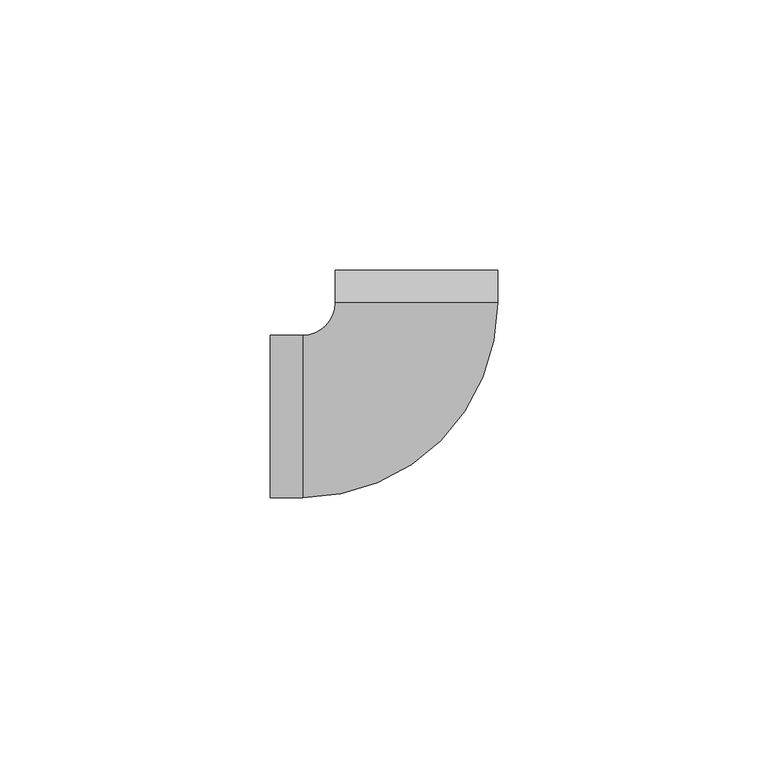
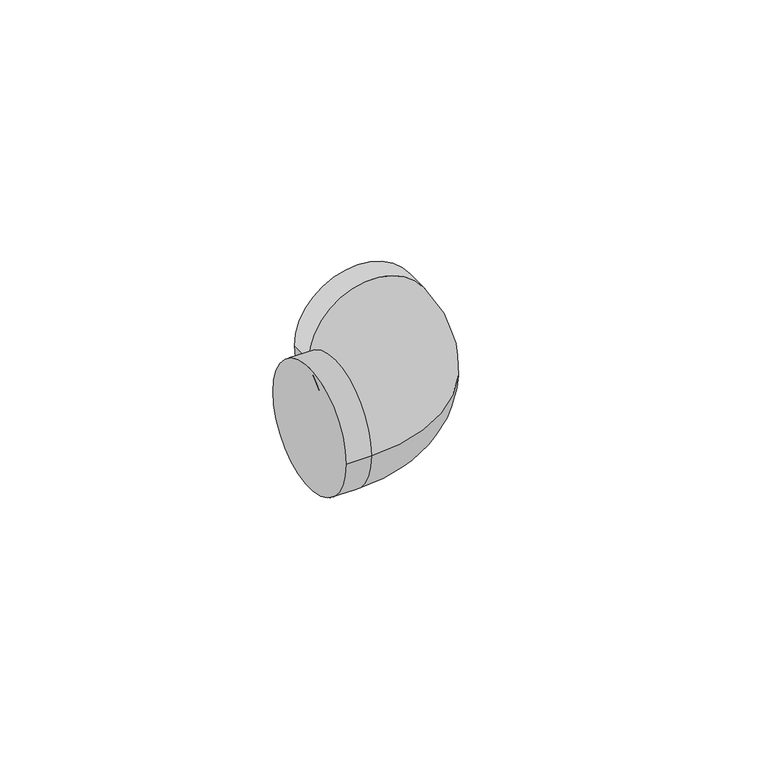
"""IFC4 building model written with IfcOpenShell, lengths in millimetres: pipe fitting geometry, PipeFitting_GirpiHTA_CPVC_Elbows_ForExpansionJoints : PipeFitting_GirpiHTA_CPVC_Elbows_ForExpansionJoints."""

from ifc_helpers import new_model, si_unit, point, frame, origin, place, context, project, spatial, circle_curve, ellipse_curve, trimmed, source, transform, mapped, element, save
from ifc_brep_helpers import plane_surface, cylinder_surface, revolved_surface, advanced_brep


def pipe_fitting_af003660(model_context):
    return source(origin(), model_context, "Body", "AdvancedBrep", [
        advanced_brep(
        [(-27.0, -15.0, 0.0), (-27.0, 15.0, 0.0), (-21.0, -15.0, 0.0), (-21.0, 15.0, 0.0), (-15.0, 21.0, 0.0), (15.0, 21.0, 0.0), (15.0, 27.0, 0.0), (-15.0, 27.0, 0.0)],
        [
            (0, 1, circle_curve(frame((-27.0, 0.0, 0.0), z_axis=(-1.0, 0.0, 0.0), x_axis=(0.0, 1.0, 0.0)), 15.0)),
            (1, 0, circle_curve(frame((-27.0, 0.0, 0.0), z_axis=(-1.0, 0.0, 0.0), x_axis=(0.0, 1.0, 0.0)), 15.0)),
            (0, 2),
            (2, 3, circle_curve(frame((-21.0, 0.0, 0.0), z_axis=(-1.0, 0.0, 0.0), x_axis=(0.0, 1.0, 0.0)), 15.0)),
            (3, 1),
            (3, 2, circle_curve(frame((-21.0, 0.0, 0.0), z_axis=(-1.0, 0.0, 0.0), x_axis=(0.0, 1.0, 0.0)), 15.0)),
            (4, 3, circle_curve(frame((-21.0, 21.0, 0.0), z_axis=(0.0, 0.0, -1.0), x_axis=(0.0, -1.0, 0.0)), 6.0)),
            (2, 5, circle_curve(frame((-21.0, 21.0, 0.0), z_axis=(0.0, 0.0, 1.0), x_axis=(0.0, -1.0, 0.0)), 36.0)),
            (5, 4, circle_curve(frame((0.0, 21.0, 0.0), z_axis=(0.0, -1.0, 0.0), x_axis=(-1.0, 0.0, 0.0)), 15.0)),
            (4, 5, circle_curve(frame((0.0, 21.0, 0.0), z_axis=(0.0, -1.0, 0.0), x_axis=(-1.0, 0.0, 0.0)), 15.0)),
            (6, 7, circle_curve(frame((0.0, 27.0, 0.0), z_axis=(0.0, 1.0, 0.0), x_axis=(-1.0, 0.0, 0.0)), 15.0)),
            (7, 6, circle_curve(frame((0.0, 27.0, 0.0), z_axis=(0.0, 1.0, 0.0), x_axis=(-1.0, 0.0, 0.0)), 15.0)),
            (5, 6),
            (7, 4),
        ],
        [
            plane_surface(frame((-27.0, 0.0, 0.0), z_axis=(-1.0, 0.0, 0.0), x_axis=(0.0, 0.0, 1.0))),
            cylinder_surface(frame((-27.0, 0.0, 0.0), z_axis=(-1.0, 0.0, 0.0), x_axis=(0.0, 1.0, 0.0)), 15.0),
            revolved_surface(trimmed(ellipse_curve(frame((-21.0, 0.0, 0.0), z_axis=(-1.0, 0.0, 0.0), x_axis=(0.0, 1.0, 0.0)), 15.0, 15.0), [point((-21.0, -15.0, 0.0))], [point((-21.0, 15.0, 0.0))], True, "CARTESIAN"), (-21.0, 21.0, 0.0), (0.0, 0.0, 1.0)),
            revolved_surface(trimmed(ellipse_curve(frame((-21.0, 0.0, 0.0), z_axis=(-1.0, 0.0, 0.0), x_axis=(0.0, 1.0, 0.0)), 15.0, 15.0), [point((-21.0, 15.0, 0.0))], [point((-21.0, -15.0, 0.0))], True, "CARTESIAN"), (-21.0, 21.0, 0.0), (0.0, 0.0, 1.0)),
            plane_surface(frame((0.0, 27.0, 0.0), z_axis=(0.0, 1.0, 0.0), x_axis=(0.0, 0.0, 1.0))),
            cylinder_surface(frame((0.0, 21.0, 0.0), z_axis=(0.0, -1.0, 0.0), x_axis=(-1.0, 0.0, 0.0)), 15.0),
        ],
        [
            (0, [[1, 2]]),
            (1, [[-1, 3, 4, 5]]),
            (1, [[-2, -5, 6, -3]]),
            (2, [[7, -4, 8, 9]]),
            (3, [[-8, -6, -7, 10]]),
            (4, [[11, 12]]),
            (5, [[-9, 13, -12, 14]]),
            (5, [[-10, -14, -11, -13]]),
        ],
    ),
    ])


if __name__ == "__main__":
    model = new_model("IFC4")
    model_context = context("Model", 3, world=origin())
    ifc_project = project(units=[si_unit("LENGTHUNIT", "METRE", prefix="MILLI")], contexts=[model_context])
    site = spatial("IfcSite", under=ifc_project)
    building = spatial("IfcBuilding", under=site)
    placement = place(None, origin())
    pipe_fitting_shape = pipe_fitting_af003660(model_context)
    element("IfcPipeFitting", 1, ObjectType="PipeFitting_GirpiHTA_CPVC_Elbows_ForExpansionJoints : PipeFitting_GirpiHTA_CPVC_Elbows_ForExpansionJoints", at=placement, inside=building, context=model_context, shape_type="MappedRepresentation", body=[
        mapped(pipe_fitting_shape, transform((0.0, 0.0, 0.0), x_axis=(1.0, 0.0, 0.0), y_axis=(0.0, 1.0, 0.0), z_axis=(0.0, 0.0, 1.0))),
    ])
    save(model, "model.ifc")
